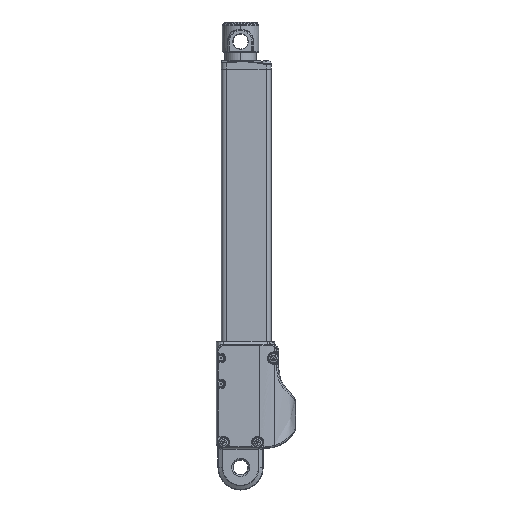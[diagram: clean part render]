
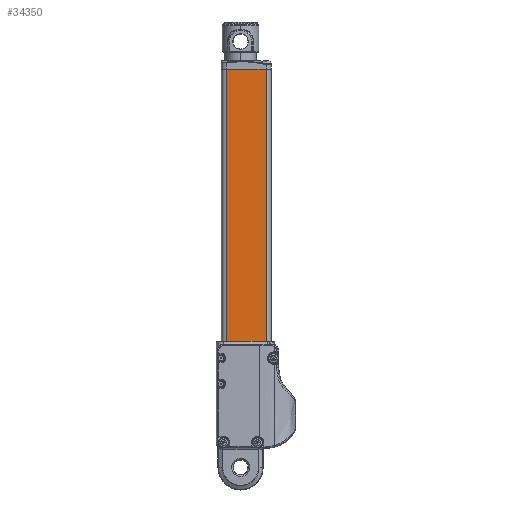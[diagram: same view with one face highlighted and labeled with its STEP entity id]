
A CAD part, front view. The second image highlights one B-rep face of the part: STEP entity #34350.
In plain terms, the highlighted planar face has unit normal (0, -1, 0).
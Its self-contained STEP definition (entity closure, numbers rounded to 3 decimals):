
#14 = DIRECTION ( 'NONE',  ( 0., 0., 1. ) ) ;
#485 = CARTESIAN_POINT ( 'NONE',  ( -18.494, -6.198, 243.189 ) ) ;
#2790 = ORIENTED_EDGE ( 'NONE', *, *, #10651, .T. ) ;
#6772 = VECTOR ( 'NONE', #24058, 1000. ) ;
#9791 = CARTESIAN_POINT ( 'NONE',  ( -46.494, -6.198, 243.189 ) ) ;
#10651 = EDGE_CURVE ( 'NONE', #33354, #19683, #15051, .T. ) ;
#13889 = LINE ( 'NONE', #39334, #6772 ) ;
#15051 = LINE ( 'NONE', #485, #19131 ) ;
#15281 = CARTESIAN_POINT ( 'NONE',  ( -18.494, -6.198, -57.908 ) ) ;
#17543 = EDGE_CURVE ( 'NONE', #27485, #33354, #42895, .T. ) ;
#18535 = CARTESIAN_POINT ( 'NONE',  ( -18.494, -6.198, 243.189 ) ) ;
#19131 = VECTOR ( 'NONE', #26558, 1000. ) ;
#19683 = VERTEX_POINT ( 'NONE', #9791 ) ;
#20891 = PLANE ( 'NONE',  #46039 ) ;
#21555 = FACE_OUTER_BOUND ( 'NONE', #27757, .T. ) ;
#24058 = DIRECTION ( 'NONE',  ( 0., 0., 1. ) ) ;
#24646 = DIRECTION ( 'NONE',  ( 0., 1., 0. ) ) ;
#26509 = CARTESIAN_POINT ( 'NONE',  ( -46.494, -6.198, -9.311 ) ) ;
#26558 = DIRECTION ( 'NONE',  ( -1., 0., 0. ) ) ;
#27485 = VERTEX_POINT ( 'NONE', #36094 ) ;
#27757 = EDGE_LOOP ( 'NONE', ( #38093, #44255, #2790, #40192 ) ) ;
#31713 = VECTOR ( 'NONE', #14, 1000. ) ;
#32198 = CARTESIAN_POINT ( 'NONE',  ( -18.494, -6.198, -57.908 ) ) ;
#32517 = DIRECTION ( 'NONE',  ( -1., 0., 0. ) ) ;
#32535 = CARTESIAN_POINT ( 'NONE',  ( -18.494, -6.198, -9.311 ) ) ;
#32571 = LINE ( 'NONE', #32535, #40207 ) ;
#33354 = VERTEX_POINT ( 'NONE', #18535 ) ;
#34350 = ADVANCED_FACE ( 'NONE', ( #21555 ), #20891, .F. ) ;
#34671 = EDGE_CURVE ( 'NONE', #42338, #19683, #13889, .T. ) ;
#36094 = CARTESIAN_POINT ( 'NONE',  ( -18.494, -6.198, -9.311 ) ) ;
#38093 = ORIENTED_EDGE ( 'NONE', *, *, #46943, .F. ) ;
#39334 = CARTESIAN_POINT ( 'NONE',  ( -46.494, -6.198, -57.908 ) ) ;
#40082 = DIRECTION ( 'NONE',  ( -1., 0., 0. ) ) ;
#40192 = ORIENTED_EDGE ( 'NONE', *, *, #34671, .F. ) ;
#40207 = VECTOR ( 'NONE', #40082, 1000. ) ;
#42338 = VERTEX_POINT ( 'NONE', #26509 ) ;
#42895 = LINE ( 'NONE', #15281, #31713 ) ;
#44255 = ORIENTED_EDGE ( 'NONE', *, *, #17543, .T. ) ;
#46039 = AXIS2_PLACEMENT_3D ( 'NONE', #32198, #24646, #32517 ) ;
#46943 = EDGE_CURVE ( 'NONE', #27485, #42338, #32571, .T. ) ;
